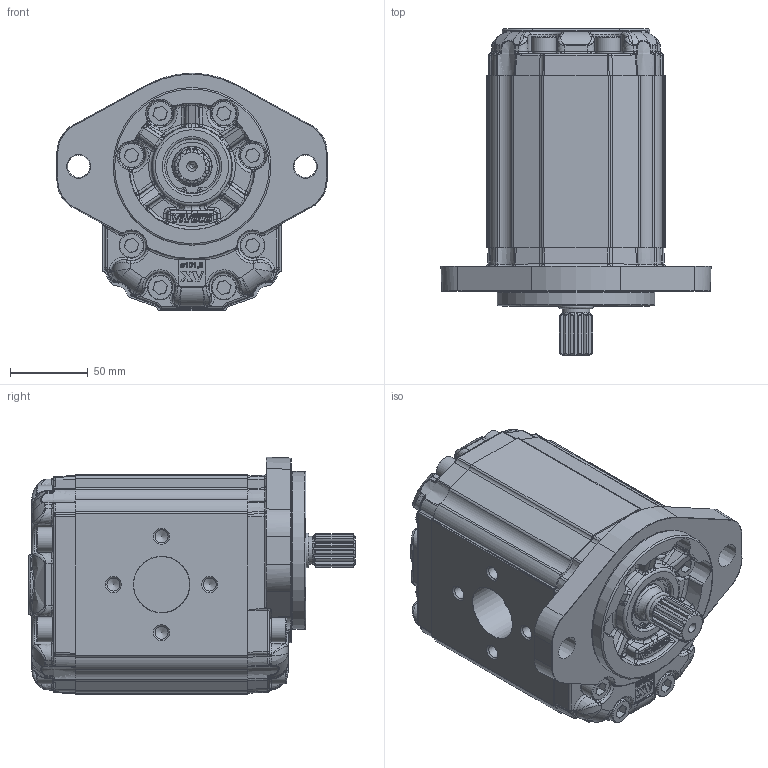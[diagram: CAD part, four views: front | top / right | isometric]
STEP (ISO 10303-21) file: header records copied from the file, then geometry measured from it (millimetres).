
FILE_DESCRIPTION(/* description */ ('Unknown'),/* implementation_level */ '2;1');
FILE_NAME(/* name */ 'X3U8631ICCA',/* time_stamp */ '2021-04-26T09:50:31+02:00',/* author */ ('Unknown'),/* organization */ ('Unknown'),/* preprocessor_version */ 'ST-DEVELOPER v16.7',/* originating_system */ 'Solid Edge',/* authorisation */ 'Unknown');
FILE_SCHEMA (('AUTOMOTIVE_DESIGN {1 0 10303 214 3 1 1}'));
Products named in the file (5): X3U8631ICCA; X3U31; 3I; X3CCH111; XU331-A
Assembly tree (4 placements, depth 2):
  X3U8631ICCA
    X3U31
    3I
    X3CCH111
    XU331-A
Bounding box: 174 x 210.2 x 153 mm (x, y, z)
Volume: 2414643.4 mm3; surface area: 219585.3 mm2
Topology: 4 solids, 21 shells, 3065 faces, 7898 edges, 4997 vertices
Faces by surface type: bspline 1317, plane 873, cylinder 654, cone 106, torus 99, sphere 16
Full cylindrical faces by diameter (mm): 2 x2, 8.376 x8, 10 x16, 15.8 x16, 16 x16, 18 x2, 24.98 x1, 25.5 x1, 26.8 x1, 29.425 x1, 31.42 x1, 33.304 x1, 34.7 x1, 35 x2, 35.2 x1, 36 x2, 37 x1, 101.6 x1
Entity records: 162889 total; most frequent: CARTESIAN_POINT 82483, ORIENTED_EDGE 15328, EDGE_CURVE 7664, DIRECTION 6742, B_SPLINE_CURVE_WITH_KNOTS 4985, VERTEX_POINT 4931, FACE_BOUND 3367, EDGE_LOOP 3358
